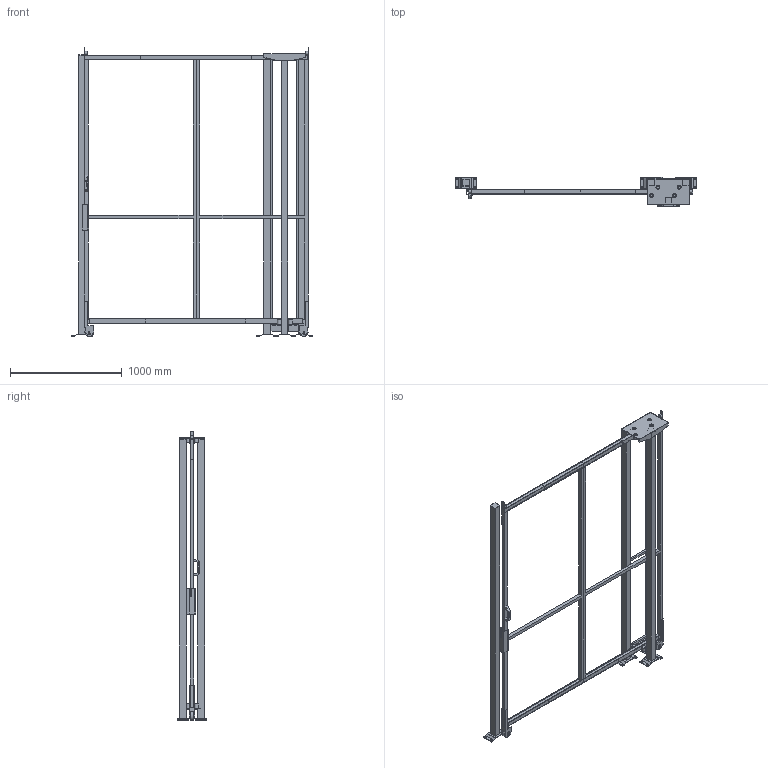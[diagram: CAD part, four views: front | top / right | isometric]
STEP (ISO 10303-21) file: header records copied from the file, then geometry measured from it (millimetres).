
FILE_DESCRIPTION(/* description */ (''),/* implementation_level */ '2;1');
FILE_NAME(/* name */ 'C:\SafeGuarding\ELABORATI\KLADKA_2025-03-20-10-37-20.stp',/* time_stamp */ '2025-03-20T10:37:24+01:00',/* author */ ('admin'),/* organization */ (''),/* preprocessor_version */ 'ST-DEVELOPER v18.1',/* originating_system */ 'AutoCAD Mechanical',/* authorisation */ '');
FILE_SCHEMA (('AUTOMOTIVE_DESIGN { 1 0 10303 214 3 1 1 }'));
Length unit declared in the file: millimetre
Products named in the file (4): Product; VFPA.REPE30.10002400; VFPA.REPE2002502400; P_VFMA.V360SDU.2520
Assembly tree (7 placements, depth 2):
  Product
    VFPA.REPE30.10002400  x2
    VFPA.REPE2002502400
    P_VFMA.V360SDU.2520  x4
Bounding box: 2161.97 x 264.14 x 2590.02 mm (x, y, z)
Volume: 55502054.2 mm3; surface area: 7045203.9 mm2
Topology: 48 solids, 59 shells, 501 faces, 1623 edges, 1581 vertices
Faces by surface type: plane 449, cylinder 50, sphere 2
Full cylindrical faces by diameter (mm): 9 x4, 11 x16, 13 x4, 30 x6, 36 x8, 80 x2
Entity records: 13769 total; most frequent: CARTESIAN_POINT 2870, DIRECTION 2099, ORIENTED_EDGE 1962, EDGE_CURVE 1030, LINE 995, VECTOR 995, VERTEX_POINT 726, AXIS2_PLACEMENT_3D 552
